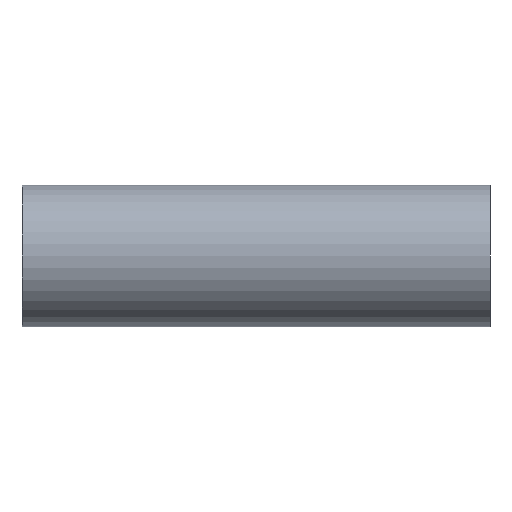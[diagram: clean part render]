
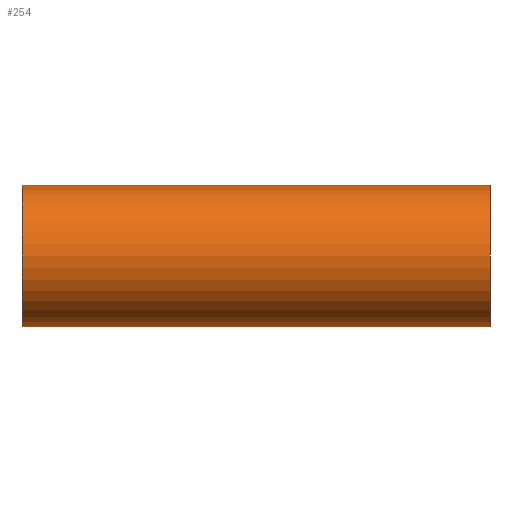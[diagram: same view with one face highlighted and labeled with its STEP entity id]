
A CAD part, front view. The second image highlights one B-rep face of the part: STEP entity #254.
In plain terms, the highlighted cylindrical face has radius 19.05 mm (diameter 38.1 mm), a partial arc.
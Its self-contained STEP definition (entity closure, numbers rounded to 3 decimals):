
#77 = VERTEX_POINT ( 'NONE', #422 ) ;
#83 = DIRECTION ( 'NONE',  ( 0., 0., 1. ) ) ;
#116 = DIRECTION ( 'NONE',  ( 1., 0., 0. ) ) ;
#137 = EDGE_CURVE ( 'NONE', #213, #77, #341, .T. ) ;
#139 = DIRECTION ( 'NONE',  ( -1., 0., 0. ) ) ;
#143 = AXIS2_PLACEMENT_3D ( 'NONE', #309, #158, #262 ) ;
#152 = CARTESIAN_POINT ( 'NONE',  ( 63., 0., 19.05 ) ) ;
#158 = DIRECTION ( 'NONE',  ( -1., 0., 0. ) ) ;
#167 = ORIENTED_EDGE ( 'NONE', *, *, #458, .F. ) ;
#176 = CARTESIAN_POINT ( 'NONE',  ( 116.882, 0., -19.05 ) ) ;
#212 = CIRCLE ( 'NONE', #143, 19.05 ) ;
#213 = VERTEX_POINT ( 'NONE', #152 ) ;
#243 = CIRCLE ( 'NONE', #301, 19.05 ) ;
#250 = FACE_OUTER_BOUND ( 'NONE', #461, .T. ) ;
#254 = ADVANCED_FACE ( 'NONE', ( #250 ), #367, .T. ) ;
#255 = CARTESIAN_POINT ( 'NONE',  ( 116.882, 0., 0. ) ) ;
#259 = DIRECTION ( 'NONE',  ( -1., 0., 0. ) ) ;
#262 = DIRECTION ( 'NONE',  ( 0., 0., 1. ) ) ;
#268 = CARTESIAN_POINT ( 'NONE',  ( 116.882, 0., 19.05 ) ) ;
#276 = VERTEX_POINT ( 'NONE', #364 ) ;
#289 = ORIENTED_EDGE ( 'NONE', *, *, #137, .T. ) ;
#301 = AXIS2_PLACEMENT_3D ( 'NONE', #504, #116, #394 ) ;
#309 = CARTESIAN_POINT ( 'NONE',  ( 63., 0., 0. ) ) ;
#339 = ORIENTED_EDGE ( 'NONE', *, *, #433, .T. ) ;
#341 = LINE ( 'NONE', #268, #484 ) ;
#364 = CARTESIAN_POINT ( 'NONE',  ( -63., 0., -19.05 ) ) ;
#367 = CYLINDRICAL_SURFACE ( 'NONE', #499, 19.05 ) ;
#394 = DIRECTION ( 'NONE',  ( 0., 0., 1. ) ) ;
#398 = CARTESIAN_POINT ( 'NONE',  ( 63., 0., -19.05 ) ) ;
#407 = EDGE_CURVE ( 'NONE', #453, #213, #212, .T. ) ;
#422 = CARTESIAN_POINT ( 'NONE',  ( -63., 0., 19.05 ) ) ;
#433 = EDGE_CURVE ( 'NONE', #77, #276, #243, .T. ) ;
#447 = VECTOR ( 'NONE', #464, 1000. ) ;
#452 = LINE ( 'NONE', #176, #447 ) ;
#453 = VERTEX_POINT ( 'NONE', #398 ) ;
#458 = EDGE_CURVE ( 'NONE', #453, #276, #452, .T. ) ;
#461 = EDGE_LOOP ( 'NONE', ( #167, #502, #289, #339 ) ) ;
#464 = DIRECTION ( 'NONE',  ( -1., 0., 0. ) ) ;
#484 = VECTOR ( 'NONE', #259, 1000. ) ;
#499 = AXIS2_PLACEMENT_3D ( 'NONE', #255, #139, #83 ) ;
#502 = ORIENTED_EDGE ( 'NONE', *, *, #407, .T. ) ;
#504 = CARTESIAN_POINT ( 'NONE',  ( -63., 0., 0. ) ) ;
